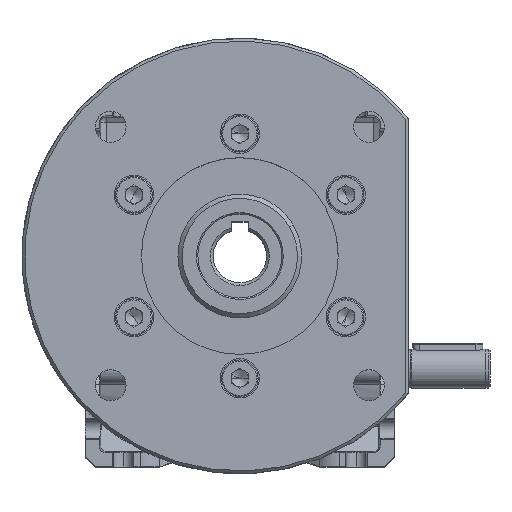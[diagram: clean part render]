
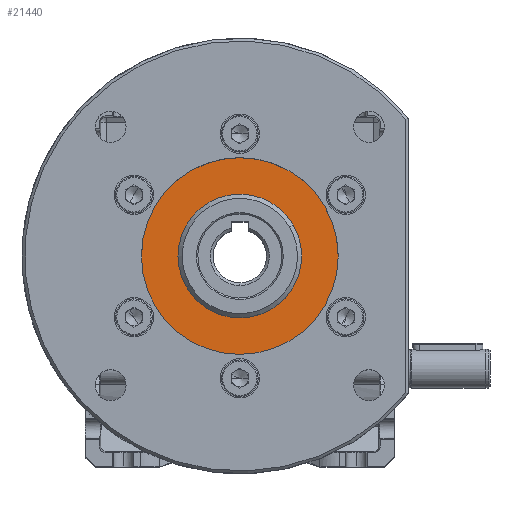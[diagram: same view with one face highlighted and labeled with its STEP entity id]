
A CAD part, top view. The second image highlights one B-rep face of the part: STEP entity #21440.
In plain terms, the highlighted planar face has unit normal (0, 0, 1).
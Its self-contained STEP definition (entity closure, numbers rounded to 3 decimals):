
#183 = AXIS2_PLACEMENT_3D ( 'NONE', #36216, #49407, #62601 ) ;
#3278 = DIRECTION ( 'NONE',  ( 0., 0., -1. ) ) ;
#8225 = DIRECTION ( 'NONE',  ( 0., 0., -1. ) ) ;
#10011 = EDGE_CURVE ( 'NONE', #21898, #34349, #39695, .T. ) ;
#11554 = VERTEX_POINT ( 'NONE', #20456 ) ;
#12259 = CARTESIAN_POINT ( 'NONE',  ( 0., 0., 58. ) ) ;
#13841 = CIRCLE ( 'NONE', #59881, 22. ) ;
#14872 = CARTESIAN_POINT ( 'NONE',  ( -11., 19.053, 58. ) ) ;
#15876 = CARTESIAN_POINT ( 'NONE',  ( 0., 0., 58. ) ) ;
#16503 = EDGE_LOOP ( 'NONE', ( #76687, #46779 ) ) ;
#17456 = CARTESIAN_POINT ( 'NONE',  ( 35., 0., 58. ) ) ;
#17464 = DIRECTION ( 'NONE',  ( -0.866, -0.5, 0. ) ) ;
#17711 = EDGE_CURVE ( 'NONE', #70902, #11554, #61570, .T. ) ;
#20456 = CARTESIAN_POINT ( 'NONE',  ( -19.053, -11., 58. ) ) ;
#21440 = ADVANCED_FACE ( 'NONE', ( #71278, #59345 ), #78291, .F. ) ;
#21898 = VERTEX_POINT ( 'NONE', #67023 ) ;
#26046 = AXIS2_PLACEMENT_3D ( 'NONE', #34578, #8225, #51491 ) ;
#26303 = EDGE_CURVE ( 'NONE', #34349, #21898, #55476, .T. ) ;
#32390 = EDGE_LOOP ( 'NONE', ( #33615, #72546 ) ) ;
#33615 = ORIENTED_EDGE ( 'NONE', *, *, #26303, .F. ) ;
#34349 = VERTEX_POINT ( 'NONE', #17456 ) ;
#34578 = CARTESIAN_POINT ( 'NONE',  ( 0., 0., 58. ) ) ;
#36216 = CARTESIAN_POINT ( 'NONE',  ( 0., 0., 58. ) ) ;
#36511 = CARTESIAN_POINT ( 'NONE',  ( 19.053, 11., 58. ) ) ;
#36954 = DIRECTION ( 'NONE',  ( 0., 0., -1. ) ) ;
#39695 = CIRCLE ( 'NONE', #48752, 35. ) ;
#46779 = ORIENTED_EDGE ( 'NONE', *, *, #17711, .T. ) ;
#48752 = AXIS2_PLACEMENT_3D ( 'NONE', #12259, #36954, #76090 ) ;
#48756 = DIRECTION ( 'NONE',  ( 0., 0., -1. ) ) ;
#49407 = DIRECTION ( 'NONE',  ( 0., 0., -1. ) ) ;
#51491 = DIRECTION ( 'NONE',  ( -0.866, -0.5, 0. ) ) ;
#55476 = CIRCLE ( 'NONE', #183, 35. ) ;
#58949 = AXIS2_PLACEMENT_3D ( 'NONE', #14872, #3278, #64710 ) ;
#59345 = FACE_BOUND ( 'NONE', #16503, .T. ) ;
#59881 = AXIS2_PLACEMENT_3D ( 'NONE', #15876, #48756, #17464 ) ;
#61570 = CIRCLE ( 'NONE', #26046, 22. ) ;
#62601 = DIRECTION ( 'NONE',  ( 1., 0., 0. ) ) ;
#64710 = DIRECTION ( 'NONE',  ( -0.866, -0.5, 0. ) ) ;
#67023 = CARTESIAN_POINT ( 'NONE',  ( -35., 0., 58. ) ) ;
#70902 = VERTEX_POINT ( 'NONE', #36511 ) ;
#71278 = FACE_OUTER_BOUND ( 'NONE', #32390, .T. ) ;
#72546 = ORIENTED_EDGE ( 'NONE', *, *, #10011, .F. ) ;
#76090 = DIRECTION ( 'NONE',  ( 1., 0., 0. ) ) ;
#76362 = EDGE_CURVE ( 'NONE', #11554, #70902, #13841, .T. ) ;
#76687 = ORIENTED_EDGE ( 'NONE', *, *, #76362, .T. ) ;
#78291 = PLANE ( 'NONE',  #58949 ) ;
